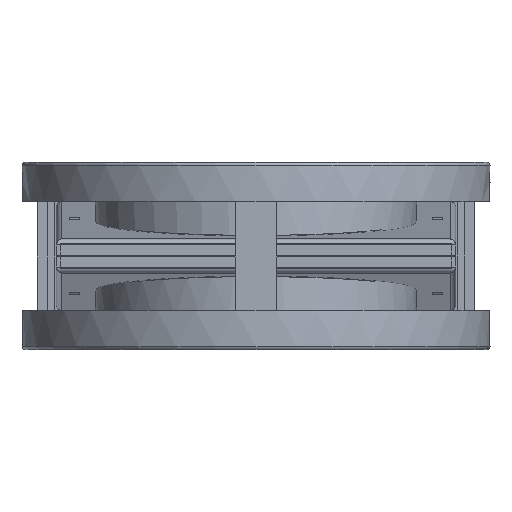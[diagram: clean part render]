
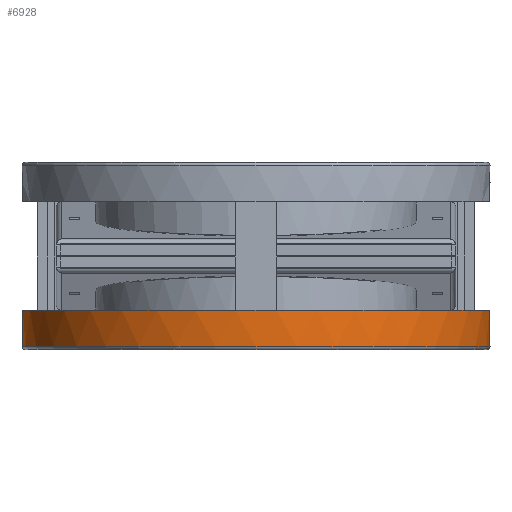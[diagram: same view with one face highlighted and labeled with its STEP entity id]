
A CAD part, front view. The second image highlights one B-rep face of the part: STEP entity #6928.
In plain terms, the highlighted cylindrical face has radius 112.4 mm (diameter 224.8 mm), a full revolution.
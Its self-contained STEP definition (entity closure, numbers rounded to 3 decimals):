
#5143=ELLIPSE('',#27134,112.829,112.4);
#5457=CYLINDRICAL_SURFACE('',#27135,112.4);
#6928=ADVANCED_FACE('',(#12212,#12213),#5457,.T.);
#12212=FACE_BOUND('',#12955,.T.);
#12213=FACE_BOUND('',#12956,.T.);
#12955=EDGE_LOOP('',(#14817));
#12956=EDGE_LOOP('',(#14818,#14819));
#14817=ORIENTED_EDGE('',*,*,#23021,.T.);
#14818=ORIENTED_EDGE('',*,*,#23022,.F.);
#14819=ORIENTED_EDGE('',*,*,#23023,.T.);
#20835=VERTEX_POINT('',#35644);
#20836=VERTEX_POINT('',#35646);
#20837=VERTEX_POINT('',#35647);
#23021=EDGE_CURVE('',#20835,#20835,#26049,.T.);
#23022=EDGE_CURVE('',#20836,#20837,#26050,.T.);
#23023=EDGE_CURVE('',#20836,#20837,#5143,.T.);
#26049=CIRCLE('',#27132,112.4);
#26050=CIRCLE('',#27133,112.4);
#27132=AXIS2_PLACEMENT_3D('',#35643,#29561,#29562);
#27133=AXIS2_PLACEMENT_3D('',#35645,#29563,#29564);
#27134=AXIS2_PLACEMENT_3D('',#35648,#29565,#29566);
#27135=AXIS2_PLACEMENT_3D('',#35649,#29567,#29568);
#29561=DIRECTION('',(1.,0.,0.));
#29562=DIRECTION('',(0.,1.,0.));
#29563=DIRECTION('',(1.,0.,0.));
#29564=DIRECTION('',(0.,1.,0.));
#29565=DIRECTION('',(-0.996,-0.087,0.));
#29566=DIRECTION('',(0.087,-0.996,0.));
#29567=DIRECTION('',(1.,0.,0.));
#29568=DIRECTION('',(0.,1.,0.));
#35643=CARTESIAN_POINT('',(1.5,0.,0.));
#35644=CARTESIAN_POINT('',(1.5,112.4,0.));
#35645=CARTESIAN_POINT('',(19.,0.,0.));
#35646=CARTESIAN_POINT('',(19.,108.597,28.991));
#35647=CARTESIAN_POINT('',(19.,108.597,-28.991));
#35648=CARTESIAN_POINT('',(28.501,0.,0.));
#35649=CARTESIAN_POINT('',(21.4,0.,0.));
